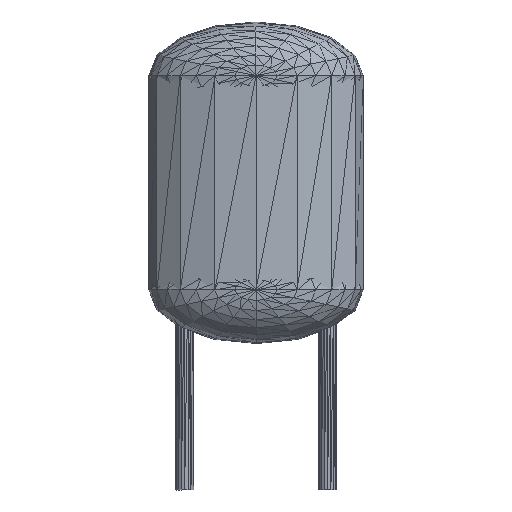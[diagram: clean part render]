
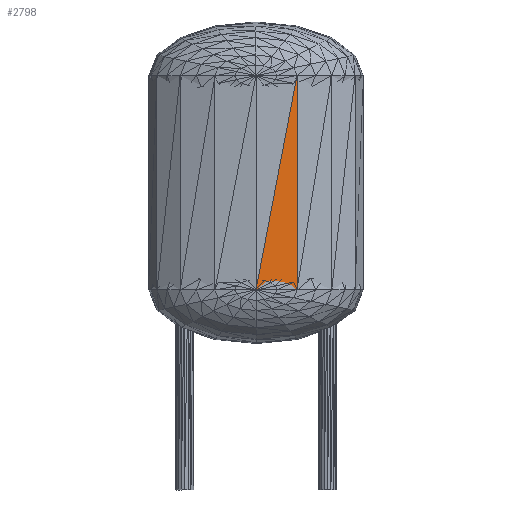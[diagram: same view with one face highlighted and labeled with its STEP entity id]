
A CAD part, front view. The second image highlights one B-rep face of the part: STEP entity #2798.
In plain terms, the highlighted planar face has unit normal (0.099, -0.995, 0).
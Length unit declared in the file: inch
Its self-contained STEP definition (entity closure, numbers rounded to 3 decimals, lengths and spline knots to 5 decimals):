
#2705=CARTESIAN_POINT('',(-0.00009,-0.07503,0.18002));
#2706=VERTEX_POINT('',#2705);
#2713=CARTESIAN_POINT('',(0.05731,-0.06932,0.18001));
#2714=VERTEX_POINT('',#2713);
#2721=CARTESIAN_POINT('',(0.05731,-0.06932,0.18001));
#2722=DIRECTION('',(-0.995,-0.099,0.));
#2723=VECTOR('',#2722,0.05769);
#2724=LINE('',#2721,#2723);
#2725=EDGE_CURVE('',#2714,#2706,#2724,.T.);
#2776=CARTESIAN_POINT('',(0.05731,-0.06926,0.48001));
#2777=DIRECTION('',(0.099,-0.995,0.));
#2778=DIRECTION('',(0.995,0.099,0.));
#2779=AXIS2_PLACEMENT_3D('',#2776,#2777,#2778);
#2780=PLANE('',#2779);
#2781=CARTESIAN_POINT('',(0.05731,-0.06926,0.48001));
#2782=VERTEX_POINT('',#2781);
#2783=CARTESIAN_POINT('',(-0.00009,-0.07503,0.18002));
#2784=DIRECTION('',(0.188,0.019,0.982));
#2785=VECTOR('',#2784,0.3055);
#2786=LINE('',#2783,#2785);
#2787=EDGE_CURVE('',#2706,#2782,#2786,.T.);
#2788=ORIENTED_EDGE('',*,*,#2787,.F.);
#2789=ORIENTED_EDGE('',*,*,#2725,.F.);
#2790=CARTESIAN_POINT('',(0.05731,-0.06932,0.18001));
#2791=DIRECTION('',(0.,0.,1.));
#2792=VECTOR('',#2791,0.3);
#2793=LINE('',#2790,#2792);
#2794=EDGE_CURVE('',#2714,#2782,#2793,.T.);
#2795=ORIENTED_EDGE('',*,*,#2794,.T.);
#2796=EDGE_LOOP('',(#2788,#2789,#2795));
#2797=FACE_BOUND('',#2796,.T.);
#2798=ADVANCED_FACE('',(#2797),#2780,.T.);
